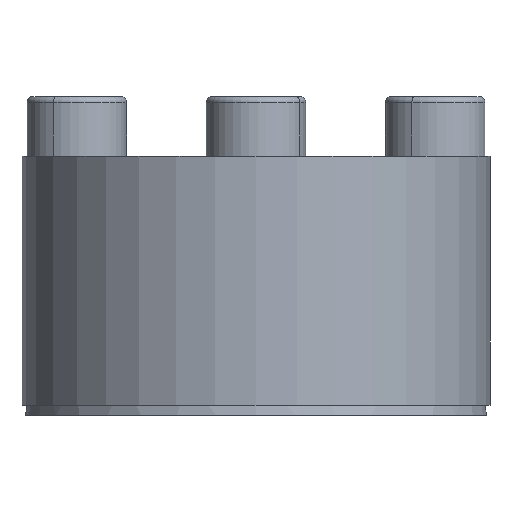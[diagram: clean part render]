
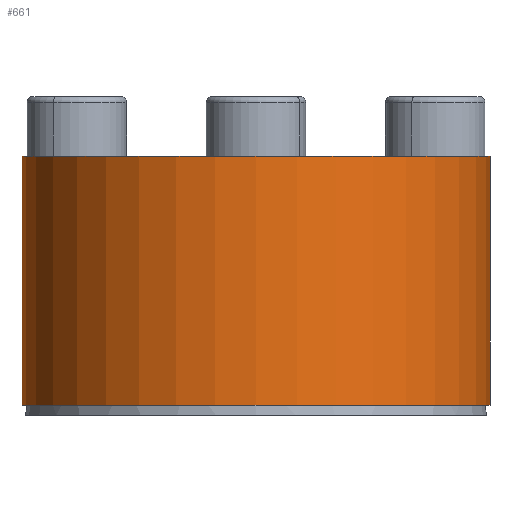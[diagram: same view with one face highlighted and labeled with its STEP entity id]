
A CAD part, front view. The second image highlights one B-rep face of the part: STEP entity #661.
In plain terms, the highlighted cylindrical face has radius 23.5 mm (diameter 47 mm), a partial arc.
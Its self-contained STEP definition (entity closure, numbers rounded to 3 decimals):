
#18 = DIRECTION ( 'NONE',  ( -1., 0., 0. ) ) ;
#113 = ORIENTED_EDGE ( 'NONE', *, *, #5625, .F. ) ;
#206 = VECTOR ( 'NONE', #441, 1000. ) ;
#387 = EDGE_LOOP ( 'NONE', ( #113, #1446, #5490, #3855 ) ) ;
#441 = DIRECTION ( 'NONE',  ( 0., 0., 1. ) ) ;
#661 = ADVANCED_FACE ( 'NONE', ( #3020 ), #851, .T. ) ;
#828 = CARTESIAN_POINT ( 'NONE',  ( -23.5, 0., 26.024 ) ) ;
#851 = CYLINDRICAL_SURFACE ( 'NONE', #1346, 23.5 ) ;
#1205 = CIRCLE ( 'NONE', #3450, 23.5 ) ;
#1217 = AXIS2_PLACEMENT_3D ( 'NONE', #1776, #5627, #2358 ) ;
#1325 = VECTOR ( 'NONE', #5687, 1000. ) ;
#1346 = AXIS2_PLACEMENT_3D ( 'NONE', #2308, #1711, #1604 ) ;
#1446 = ORIENTED_EDGE ( 'NONE', *, *, #3416, .F. ) ;
#1604 = DIRECTION ( 'NONE',  ( 1., 0., 0. ) ) ;
#1711 = DIRECTION ( 'NONE',  ( 0., 0., 1. ) ) ;
#1776 = CARTESIAN_POINT ( 'NONE',  ( 0., 0., 26.024 ) ) ;
#1832 = CARTESIAN_POINT ( 'NONE',  ( -23.5, 0., 1.024 ) ) ;
#2308 = CARTESIAN_POINT ( 'NONE',  ( 0., 0., 1.024 ) ) ;
#2329 = EDGE_CURVE ( 'NONE', #4902, #3096, #6333, .T. ) ;
#2358 = DIRECTION ( 'NONE',  ( -1., 0., 0. ) ) ;
#2698 = EDGE_CURVE ( 'NONE', #4803, #4902, #4454, .T. ) ;
#3020 = FACE_OUTER_BOUND ( 'NONE', #387, .T. ) ;
#3096 = VERTEX_POINT ( 'NONE', #828 ) ;
#3354 = DIRECTION ( 'NONE',  ( 0., 0., -1. ) ) ;
#3416 = EDGE_CURVE ( 'NONE', #4803, #4709, #1205, .T. ) ;
#3450 = AXIS2_PLACEMENT_3D ( 'NONE', #6640, #3354, #18 ) ;
#3765 = CARTESIAN_POINT ( 'NONE',  ( 23.5, 0., 1.024 ) ) ;
#3855 = ORIENTED_EDGE ( 'NONE', *, *, #2329, .T. ) ;
#4360 = CARTESIAN_POINT ( 'NONE',  ( -23.5, 0., 1.024 ) ) ;
#4454 = LINE ( 'NONE', #3765, #206 ) ;
#4709 = VERTEX_POINT ( 'NONE', #4360 ) ;
#4803 = VERTEX_POINT ( 'NONE', #7141 ) ;
#4902 = VERTEX_POINT ( 'NONE', #6175 ) ;
#5490 = ORIENTED_EDGE ( 'NONE', *, *, #2698, .T. ) ;
#5544 = LINE ( 'NONE', #1832, #1325 ) ;
#5625 = EDGE_CURVE ( 'NONE', #4709, #3096, #5544, .T. ) ;
#5627 = DIRECTION ( 'NONE',  ( 0., 0., -1. ) ) ;
#5687 = DIRECTION ( 'NONE',  ( 0., 0., 1. ) ) ;
#6175 = CARTESIAN_POINT ( 'NONE',  ( 23.5, 0., 26.024 ) ) ;
#6333 = CIRCLE ( 'NONE', #1217, 23.5 ) ;
#6640 = CARTESIAN_POINT ( 'NONE',  ( 0., 0., 1.024 ) ) ;
#7141 = CARTESIAN_POINT ( 'NONE',  ( 23.5, 0., 1.024 ) ) ;
